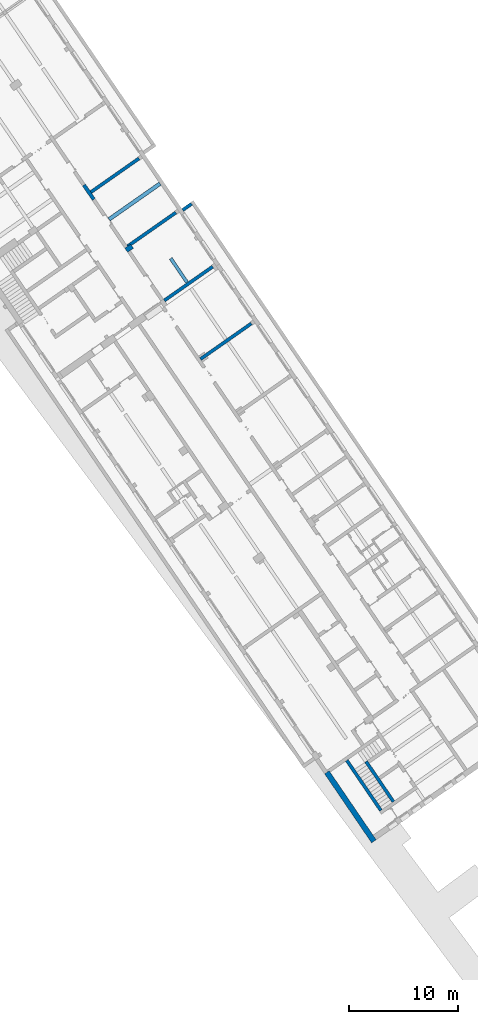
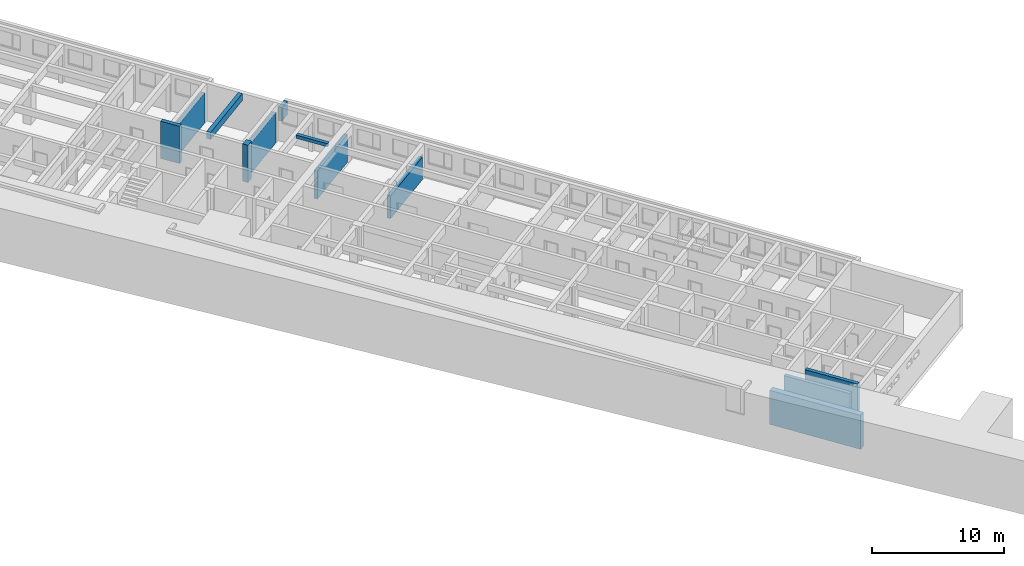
# One storey, part 38 of 112: 12 walls.
"""IFC2X3 building model written with IfcOpenShell, lengths in millimetres."""

from ifc_helpers import new_model, entity, si_unit, converted_unit, derived_unit, direction, frame, frame_2d, origin, place, context, subcontext, project, spatial, polyline, rectangle, outline, extrude, material, layer, layer_set, layer_usage, type_object, element, save


model = new_model("IFC2X3")

# Units and contexts
model_context = context("Model", 3, precision=0.01, world=origin(), true_north=direction((6.123031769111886e-17, 1.0)))
body_context = subcontext(model_context, "Body", "Model", "MODEL_VIEW")
ifc_project = project(units=[si_unit("LENGTHUNIT", "METRE", prefix="MILLI"), si_unit("AREAUNIT", "SQUARE_METRE"), si_unit("VOLUMEUNIT", "CUBIC_METRE"), converted_unit("PLANEANGLEUNIT", "DEGREE", entity("IfcRatioMeasure", 0.017453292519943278), si_unit("PLANEANGLEUNIT", "RADIAN"), dimensions=[0, 0, 0, 0, 0, 0, 0]), si_unit("MASSUNIT", "GRAM", prefix="KILO"), derived_unit("MASSDENSITYUNIT", [(si_unit("MASSUNIT", "GRAM", prefix="KILO"), 1), (si_unit("LENGTHUNIT", "METRE"), -3)]), derived_unit("MOMENTOFINERTIAUNIT", [(si_unit("LENGTHUNIT", "METRE"), 4)]), si_unit("TIMEUNIT", "SECOND"), si_unit("FREQUENCYUNIT", "HERTZ"), si_unit("THERMODYNAMICTEMPERATUREUNIT", "DEGREE_CELSIUS"), derived_unit("THERMALTRANSMITTANCEUNIT", [(si_unit("MASSUNIT", "GRAM", prefix="KILO"), 1), (si_unit("THERMODYNAMICTEMPERATUREUNIT", "KELVIN"), -1), (si_unit("TIMEUNIT", "SECOND"), -3)]), derived_unit("THERMALCONDUCTANCEUNIT", [(si_unit("MASSUNIT", "GRAM", prefix="KILO"), 1), (si_unit("LENGTHUNIT", "METRE"), 1), (si_unit("THERMODYNAMICTEMPERATUREUNIT", "KELVIN"), -1), (si_unit("TIMEUNIT", "SECOND"), -3)]), derived_unit("VOLUMETRICFLOWRATEUNIT", [(si_unit("LENGTHUNIT", "METRE"), 3), (si_unit("TIMEUNIT", "SECOND"), -1)]), derived_unit("MASSFLOWRATEUNIT", [(si_unit("MASSUNIT", "GRAM", prefix="KILO"), 1), (si_unit("TIMEUNIT", "SECOND"), -1)]), derived_unit("ROTATIONALFREQUENCYUNIT", [(si_unit("TIMEUNIT", "SECOND"), -1)]), si_unit("ELECTRICCURRENTUNIT", "AMPERE"), si_unit("ELECTRICVOLTAGEUNIT", "VOLT"), si_unit("POWERUNIT", "WATT"), converted_unit("FORCEUNIT", "KIP", entity("IfcRatioMeasure", 2.088543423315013e-05), si_unit("FORCEUNIT", "NEWTON"), dimensions=[1, 1, -2, 0, 0, 0, 0]), si_unit("ILLUMINANCEUNIT", "LUX"), si_unit("LUMINOUSFLUXUNIT", "LUMEN"), si_unit("LUMINOUSINTENSITYUNIT", "CANDELA"), derived_unit("USERDEFINED", [(si_unit("MASSUNIT", "GRAM", prefix="KILO"), -1), (si_unit("LENGTHUNIT", "METRE"), -2), (si_unit("TIMEUNIT", "SECOND"), 3), (si_unit("LUMINOUSFLUXUNIT", "LUMEN"), 1)]), derived_unit("USERDEFINED", [(si_unit("MASSUNIT", "GRAM", prefix="KILO"), 1), (si_unit("LENGTHUNIT", "METRE"), 3), (si_unit("TIMEUNIT", "SECOND"), -3), (si_unit("ELECTRICCURRENTUNIT", "AMPERE"), -2)]), derived_unit("USERDEFINED", [(si_unit("LENGTHUNIT", "METRE"), 2), (si_unit("TIMEUNIT", "SECOND"), -2)]), derived_unit("SOUNDPOWERUNIT", [(si_unit("MASSUNIT", "GRAM", prefix="KILO"), 1), (si_unit("LENGTHUNIT", "METRE"), 2), (si_unit("TIMEUNIT", "SECOND"), -3)]), derived_unit("SOUNDPRESSUREUNIT", [(si_unit("MASSUNIT", "GRAM", prefix="KILO"), 1), (si_unit("LENGTHUNIT", "METRE"), -1), (si_unit("TIMEUNIT", "SECOND"), -2)]), derived_unit("LINEARVELOCITYUNIT", [(si_unit("LENGTHUNIT", "METRE"), 1), (si_unit("TIMEUNIT", "SECOND"), -1)]), si_unit("PRESSUREUNIT", "PASCAL"), derived_unit("USERDEFINED", [(si_unit("LENGTHUNIT", "METRE"), -2), (si_unit("MASSUNIT", "GRAM", prefix="KILO"), 1), (si_unit("TIMEUNIT", "SECOND"), -2)]), derived_unit("LINEARFORCEUNIT", [(si_unit("MASSUNIT", "GRAM", prefix="KILO"), 1), (si_unit("LENGTHUNIT", "METRE"), 1), (si_unit("TIMEUNIT", "SECOND"), -2), (si_unit("LENGTHUNIT", "METRE"), -1)]), derived_unit("PLANARFORCEUNIT", [(si_unit("MASSUNIT", "GRAM", prefix="KILO"), 1), (si_unit("LENGTHUNIT", "METRE"), 1), (si_unit("TIMEUNIT", "SECOND"), -2), (si_unit("LENGTHUNIT", "METRE"), -2)]), derived_unit("SPECIFICHEATCAPACITYUNIT", [(si_unit("LENGTHUNIT", "METRE"), 2), (si_unit("TIMEUNIT", "SECOND"), -2), (si_unit("THERMODYNAMICTEMPERATUREUNIT", "KELVIN"), -1)]), derived_unit("VAPORPERMEABILITYUNIT", [(si_unit("TIMEUNIT", "SECOND"), 1), (si_unit("LENGTHUNIT", "METRE"), -1)]), derived_unit("DYNAMICVISCOSITYUNIT", [(si_unit("MASSUNIT", "GRAM", prefix="KILO"), 1), (si_unit("LENGTHUNIT", "METRE"), -1), (si_unit("TIMEUNIT", "SECOND"), -1)]), derived_unit("THERMALEXPANSIONCOEFFICIENTUNIT", [(si_unit("THERMODYNAMICTEMPERATUREUNIT", "KELVIN"), -1)])], contexts=[model_context])

# Site, building, storey
site_placement = place(None, frame((0.0, 0.0, 0.0), z_axis=(0.0, 0.0, 1.0), x_axis=(0.8191520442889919, 0.5735764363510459, 0.0)))
site = spatial("IfcSite", under=ifc_project, at=site_placement, Name="Default", CompositionType="ELEMENT")
building_placement = place(site_placement, origin())
building = spatial("IfcBuilding", under=site, at=building_placement, CompositionType="ELEMENT")
storey_placement = place(building_placement, frame((0.0, 0.0, -3600.0)))
storey = spatial("IfcBuildingStorey", under=building, at=storey_placement, Name="0.UG -3.60", CompositionType="ELEMENT", Elevation=-3600.0000000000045)

# Walls
ifc_material = material(Name="Analytical Wall Surface_CJC")
ifc_layer_1 = layer(ifc_material, 300.0)
ifc_layer_set_1 = layer_set([ifc_layer_1], Name="Basic Wall:Wand_Innen_30")
ifc_layer_usage_1 = layer_usage(ifc_layer_set_1, "AXIS2", "NEGATIVE", 150.0)
wall_type_1 = type_object("IfcWallType", Name="Basic Wall:Wand_Innen_30", PredefinedType="STANDARD", material=ifc_layer_set_1)
wall_1_placement = place(storey_placement, frame((-210774.18690315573, 115696.35891435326, 0.0)))
element("IfcWallStandardCase", 1, at=wall_1_placement, inside=storey, type_object=wall_type_1, material=ifc_layer_usage_1, Name="Basic Wall:Wand_Innen_30", ObjectType="Basic Wall:Wand_Innen_30", context=body_context, shape_type="SweptSolid", body=[
    extrude(outline(polyline([(5377.332980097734, -150.0), (5377.332980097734, 150.0), (3.819185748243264, 150.0), (0.0, -150.0), (5377.332980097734, -150.0)])), origin(), (0.0, 0.0, 1.0), 2800.0),
])
wall_2_placement = place(storey_placement, frame((-205551.49142063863, 103696.35891435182, 0.0), z_axis=(0.0, 0.0, 1.0), x_axis=(-1.0, 0.0, 0.0)))
element("IfcWallStandardCase", 2, at=wall_2_placement, inside=storey, type_object=wall_type_1, material=ifc_layer_usage_1, Name="Basic Wall:Wand_Innen_30", ObjectType="Basic Wall:Wand_Innen_30", context=body_context, shape_type="SweptSolid", body=[
    extrude(rectangle(XDim=5404.602389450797, YDim=300.00000000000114, at=frame_2d((2702.3011947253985, -1.3216094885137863e-12), x_axis=(-1.0, 0.0))), origin(), (0.0, 0.0, 1.0), 2600.0),
])
wall_3_placement = place(storey_placement, frame((-205629.78446116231, 97396.35891435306, 300.0), z_axis=(0.0, 0.0, 1.0), x_axis=(-1.0, 0.0, 0.0)))
element("IfcWallStandardCase", 3, at=wall_3_placement, inside=storey, type_object=wall_type_1, material=ifc_layer_usage_1, Name="Basic Wall:Wand_Innen_30", ObjectType="Basic Wall:Wand_Innen_30", context=body_context, shape_type="SweptSolid", body=[
    extrude(outline(polyline([(5698.579921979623, -150.0), (5702.399107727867, 150.0), (5046.871204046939, 150.0), (0.0, 150.0), (0.0, -150.0), (5046.871204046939, -150.0), (5698.579921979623, -150.0)])), origin(), (0.0, 0.0, 1.0), 2100.0),
])
wall_4_placement = place(storey_placement, frame((-208297.62848368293, 103869.44947620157, 3150.0), z_axis=(0.0, 0.0, 1.0), x_axis=(0.0127295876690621, 0.9999189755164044, 0.0)))
element("IfcWallStandardCase", 4, at=wall_4_placement, inside=storey, type_object=wall_type_1, material=ifc_layer_usage_1, Name="Basic Wall:Wand_Innen_30", ObjectType="Basic Wall:Wand_Innen_30", context=body_context, shape_type="SweptSolid", body=[
    extrude(outline(polyline([(2654.0339180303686, -150.0), (2650.2147322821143, 150.0), (0.0, 150.0), (3.819185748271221, -150.0), (2654.0339180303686, -150.0)])), origin(), (0.0, 0.0, 1.0), 300.0),
])
wall_5_placement = place(storey_placement, frame((-210871.75345814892, 109696.35891435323, 0.0)))
element("IfcWallStandardCase", 5, at=wall_5_placement, inside=storey, type_object=wall_type_1, material=ifc_layer_usage_1, Name="Basic Wall:Wand_Innen_30", ObjectType="Basic Wall:Wand_Innen_30", context=body_context, shape_type="SweptSolid", body=[
    extrude(outline(polyline([(5398.515820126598, -150.0), (5398.515820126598, 150.0), (0.0, 150.0), (-1.9339012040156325, -1.9094381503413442), (348.0660999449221, -4.137115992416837), (346.2091751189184, -150.0), (5398.515820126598, -150.0)])), origin(), (0.0, 0.0, 1.0), 2800.0),
])
ifc_layer_2 = layer(ifc_material, 350.0)
ifc_layer_set_2 = layer_set([ifc_layer_2], Name="Basic Wall:Wand_Innen_35")
ifc_layer_usage_2 = layer_usage(ifc_layer_set_2, "AXIS2", "NEGATIVE", 175.0)
wall_type_2 = type_object("IfcWallType", Name="Basic Wall:Wand_Innen_35", PredefinedType="STANDARD", material=ifc_layer_set_2)
wall_6_placement = place(storey_placement, frame((-205132.7937499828, 112696.35891435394, 2800.0), z_axis=(0.0, 0.0, 1.0), x_axis=(-1.0, 0.0, 0.0)))
element("IfcWallStandardCase", 6, at=wall_6_placement, inside=storey, type_object=wall_type_2, material=ifc_layer_usage_2, Name="Basic Wall:Wand_Innen_35", ObjectType="Basic Wall:Wand_Innen_35", context=body_context, shape_type="SweptSolid", body=[
    extrude(outline(polyline([(5700.449585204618, -175.0), (5704.905301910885, 175.0), (4.455731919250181, 175.0), (0.0, -175.0), (5700.449585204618, -175.0)])), origin(), (0.0, 0.0, 1.0), 650.0),
])
ifc_layer_3 = layer(ifc_material, 650.0)
ifc_layer_set_3 = layer_set([ifc_layer_3], Name="Basic Wall:Wand_Innen_65")
ifc_layer_usage_3 = layer_usage(ifc_layer_set_3, "AXIS2", "NEGATIVE", 325.0)
wall_type_3 = type_object("IfcWallType", Name="Basic Wall:Wand_Innen_65", PredefinedType="STANDARD", material=ifc_layer_set_3)
wall_7_placement = place(storey_placement, frame((-210854.44247191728, 109242.22179836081, 0.0), z_axis=(0.0, 0.0, 1.0), x_axis=(0.012729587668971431, 0.9999189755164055, 0.0)))
element("IfcWallStandardCase", 7, at=wall_7_placement, inside=storey, type_object=wall_type_3, material=ifc_layer_usage_3, Name="Basic Wall:Wand_Innen_65", ObjectType="Basic Wall:Wand_Innen_65", context=body_context, shape_type="SweptSolid", body=[
    extrude(rectangle(XDim=454.17391519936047, YDim=649.9999999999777, at=frame_2d((227.08695759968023, 3.524291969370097e-12), x_axis=(-1.0, 0.0))), origin(), (0.0, 0.0, 1.0), 3450.0),
])
ifc_layer_4 = layer(ifc_material, 500.00000000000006)
ifc_layer_set_4 = layer_set([ifc_layer_4], Name="Basic Wall:Wand_Aussen_50")
ifc_layer_usage_4 = layer_usage(ifc_layer_set_4, "AXIS2", "NEGATIVE", 250.00000000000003)
wall_type_4 = type_object("IfcWallType", Name="Basic Wall:Wand_Aussen_50", PredefinedType="STANDARD", material=ifc_layer_set_4)
wall_8_placement = place(storey_placement, frame((-223658.23260974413, 52068.17651743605, 300.0), z_axis=(0.0, 0.0, 1.0), x_axis=(0.012729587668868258, 0.9999189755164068, 0.0)))
element("IfcWallStandardCase", 8, at=wall_8_placement, inside=storey, type_object=wall_type_4, material=ifc_layer_usage_4, Name="Basic Wall:Wand_Aussen_50", ObjectType="Basic Wall:Wand_Aussen_50", context=body_context, shape_type="SweptSolid", body=[
    extrude(outline(polyline([(7653.802542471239, -250.0), (7653.802542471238, 250.0), (0.0, 250.0), (6.36530958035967, -250.0), (506.4058251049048, -250.0), (7506.973042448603, -250.0), (7653.802542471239, -250.0)])), origin(), (0.0, 0.0, 1.0), 3150.000000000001),
])
ifc_layer_5 = layer(ifc_material, 325.0)
ifc_layer_set_5 = layer_set([ifc_layer_5], Name="Basic Wall:Wand_Innen_32.5")
ifc_layer_usage_5 = layer_usage(ifc_layer_set_5, "AXIS2", "POSITIVE", -162.5)
wall_type_5 = type_object("IfcWallType", Name="Basic Wall:Wand_Innen_32.5", PredefinedType="STANDARD", material=ifc_layer_set_5)
wall_9_placement = place(storey_placement, frame((-210943.6755772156, 114998.42747234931, 0.0), z_axis=(0.0, 0.0, 1.0), x_axis=(0.012729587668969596, 0.9999189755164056, 0.0)))
element("IfcWallStandardCase", 9, at=wall_9_placement, inside=storey, type_object=wall_type_5, material=ifc_layer_usage_5, Name="Basic Wall:Wand_Innen_32.5", ObjectType="Basic Wall:Wand_Innen_32.5", context=body_context, shape_type="SweptSolid", body=[
    extrude(rectangle(XDim=1600.1296496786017, YDim=325.00000000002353, at=frame_2d((800.0648248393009, 8.668621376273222e-13), x_axis=(-1.0, 0.0))), origin(), (0.0, 0.0, 1.0), 3450.0),
])
ifc_layer_6 = layer(ifc_material, 300.0)
ifc_layer_set_6 = layer_set([ifc_layer_6], Name="Basic Wall:Wand_Aussen_30")
ifc_layer_usage_6 = layer_usage(ifc_layer_set_6, "AXIS2", "NEGATIVE", 150.0)
wall_type_6 = type_object("IfcWallType", Name="Basic Wall:Wand_Aussen_30", PredefinedType="STANDARD", material=ifc_layer_set_6)
wall_10_placement = place(storey_placement, frame((-221508.28096895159, 54019.449476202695, 300.0), z_axis=(0.0, 0.0, 1.0), x_axis=(0.012729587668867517, 0.9999189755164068, 0.0)))
element("IfcWallStandardCase", 10, at=wall_10_placement, inside=storey, type_object=wall_type_6, material=ifc_layer_usage_6, Name="Basic Wall:Wand_Aussen_30", ObjectType="Basic Wall:Wand_Aussen_30", context=body_context, shape_type="SweptSolid", body=[
    extrude(outline(polyline([(5554.268908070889, -150.0), (5550.449722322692, 150.0), (0.0, 150.0), (3.8191857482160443, -150.0), (5554.268908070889, -150.0)])), origin(), (0.0, 0.0, 1.0), 3150.0),
])
wall_11_placement = place(storey_placement, frame((-220108.16768920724, 54019.449644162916, 300.0), z_axis=(0.0, 0.0, 1.0), x_axis=(0.012728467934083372, 0.9999189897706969, 0.0)))
element("IfcWallStandardCase", 11, at=wall_11_placement, inside=storey, type_object=wall_type_6, material=ifc_layer_usage_6, Name="Basic Wall:Wand_Aussen_30", ObjectType="Basic Wall:Wand_Aussen_30", context=body_context, shape_type="SweptSolid", body=[
    extrude(outline(polyline([(4453.774980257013, -150.0), (4449.956130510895, 150.0), (0.0, 150.0), (3.8188497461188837, -150.0), (2354.009239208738, -150.0), (2654.033544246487, -150.0), (4153.750675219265, -150.0), (4453.774980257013, -150.0)])), origin(), (0.0, 0.0, 1.0), 3150.0),
])
ifc_layer_usage_7 = layer_usage(ifc_layer_set_6, "AXIS2", "POSITIVE", -150.0)
wall_12_placement = place(storey_placement, frame((-203823.42220226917, 109521.35891435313, 1600.0), z_axis=(0.0, 0.0, 1.0), x_axis=(-1.0, 0.0, 0.0)))
element("IfcWallStandardCase", 12, at=wall_12_placement, inside=storey, type_object=wall_type_6, material=ifc_layer_usage_7, Name="Basic Wall:Wand_Aussen_30", ObjectType="Basic Wall:Wand_Aussen_30", context=body_context, shape_type="SweptSolid", body=[
    extrude(outline(polyline([(1000.0813070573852, -150.0), (1003.9005058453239, 150.0), (3.8191857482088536, 150.0), (0.0, -150.0), (1000.0813070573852, -150.0)])), origin(), (0.0, 0.0, 1.0), 1250.0),
])

save(model, "model.ifc")
